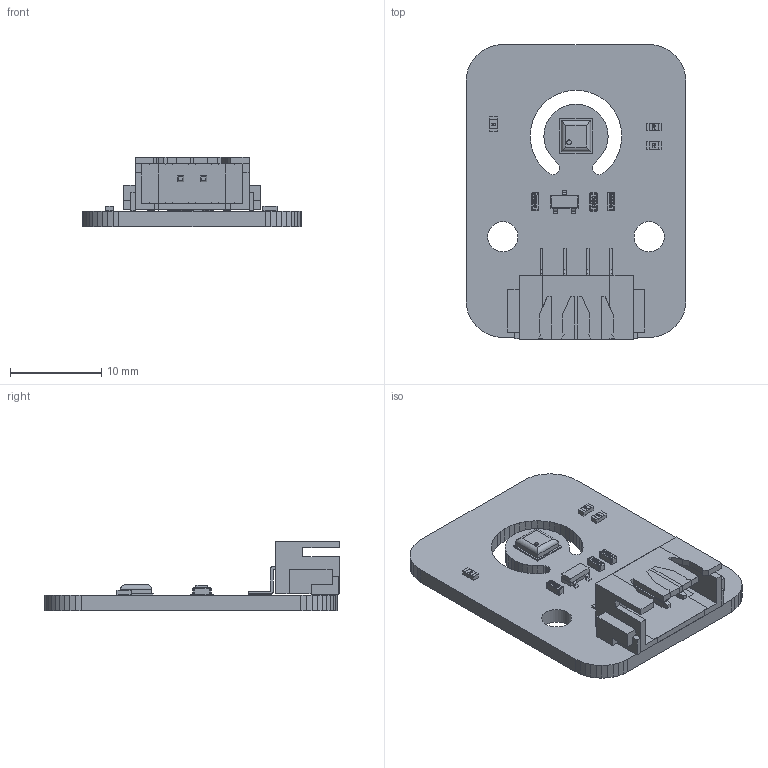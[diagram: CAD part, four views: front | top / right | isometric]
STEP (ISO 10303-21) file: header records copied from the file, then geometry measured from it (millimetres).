
FILE_DESCRIPTION(('Open CASCADE Model'),'2;1');
FILE_NAME('Open CASCADE Shape Model','2024-09-14T01:41:36',('Author'),( 'Open CASCADE'),'Open CASCADE STEP processor 6.5','Open CASCADE 6.5' ,'Unknown');
FILE_SCHEMA(('AUTOMOTIVE_DESIGN { 1 0 10303 214 1 1 1 1 }'));
Length unit declared in the file: millimetre
Products named in the file (16): PCB; Board; U2; CircuitWorks-SOT-23; C3; User_Library-0603(1608M)_Cap; C2; P3; 4pin-2.5; P1; 0603_R; C1; R1; R2; U1; HP203N
Assembly tree (19 placements, depth 3):
  PCB
    Board
    U2
      CircuitWorks-SOT-23
    C3
      User_Library-0603(1608M)_Cap
    C2
      User_Library-0603(1608M)_Cap
    P3
      4pin-2.5
    P1
      0603_R
    C1
      User_Library-0603(1608M)_Cap
    R1
      0603_R
    R2
      0603_R
    U1
      HP203N
Bounding box: 24.02 x 32.25 x 7.57 mm (x, y, z)
Volume: 1512.3 mm3; surface area: 2843 mm2
Topology: 17 solids, 17 shells, 955 faces, 2557 edges, 1651 vertices
Faces by surface type: plane 621, bspline 216, cylinder 103, extrusion 15
Full cylindrical faces by diameter (mm): 0.5 x1, 3.3 x2
Entity records: 50426 total; most frequent: CARTESIAN_POINT 14184, DIRECTION 5555, VECTOR 4129, LINE 4124, ORIENTED_EDGE 3442, PCURVE 3442, DEFINITIONAL_REPRESENTATION 3442, EDGE_CURVE 1721
